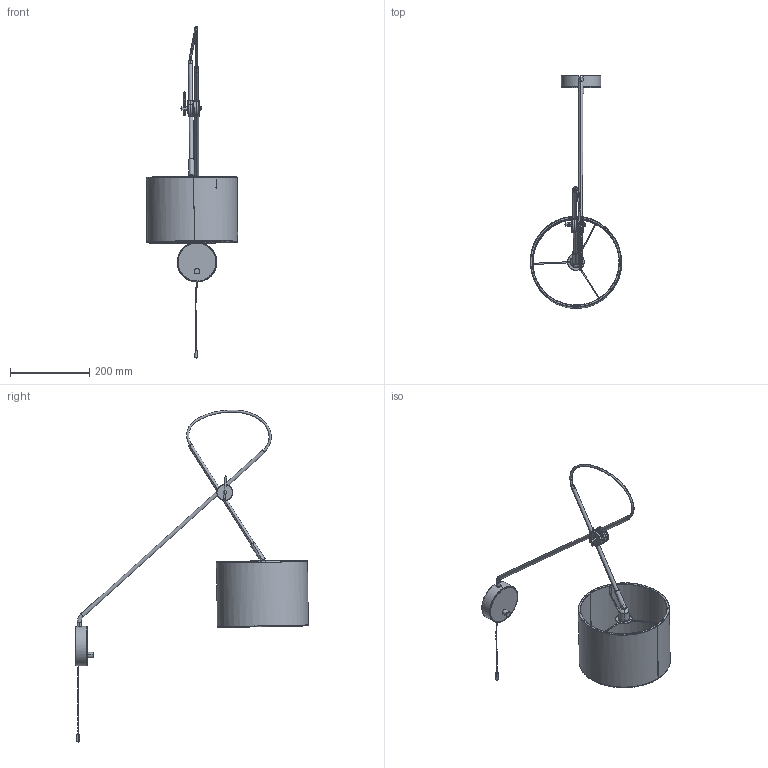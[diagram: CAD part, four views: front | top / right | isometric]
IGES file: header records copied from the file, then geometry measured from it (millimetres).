
Start section: SolidWorks IGES file using NURBS representation for surfaces
Global section: file name: Z:\Modele 3D_WWW\_KOLEKCJE_WWW\VIPER\VIPER-I-6512-6513\VIPER-I-6512-6513.IGS; native system: SolidWorks 2021; preprocessor: SolidWorks 2021; author: gabriela.tworek; date: 211116.081316; units: millimetre
Bounding box: 231.49 x 589.22 x 840.49 mm (x, y, z)
Surface area: 365672.7 mm2 (no closed solid volume)
Topology: 0 solids, 0 shells, 273 faces, 4753 edges, 4741 vertices
Faces by surface type: bspline 273
